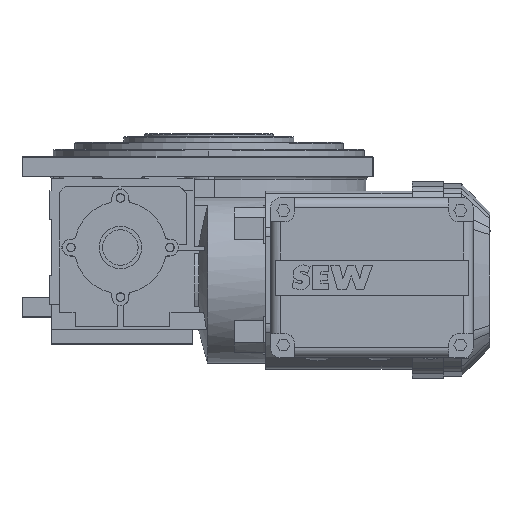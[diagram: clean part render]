
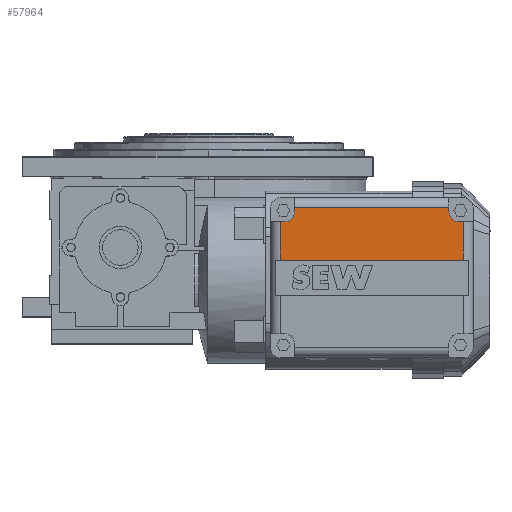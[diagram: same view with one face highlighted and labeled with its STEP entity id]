
A CAD part, top view. The second image highlights one B-rep face of the part: STEP entity #57964.
In plain terms, the highlighted planar face has unit normal (0, 0, 1).
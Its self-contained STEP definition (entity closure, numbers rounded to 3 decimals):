
#16 = ORIENTED_EDGE ( 'NONE', *, *, #41396, .T. ) ;
#137 = CARTESIAN_POINT ( 'NONE',  ( 50.5, 87., 330.5 ) ) ;
#397 = CARTESIAN_POINT ( 'NONE',  ( 187.5, 70., 330.5 ) ) ;
#678 = ORIENTED_EDGE ( 'NONE', *, *, #3190, .T. ) ;
#3190 = EDGE_CURVE ( 'NONE', #4607, #36195, #8022, .T. ) ;
#3600 = VERTEX_POINT ( 'NONE', #65257 ) ;
#3632 = ORIENTED_EDGE ( 'NONE', *, *, #35924, .F. ) ;
#4607 = VERTEX_POINT ( 'NONE', #46206 ) ;
#5109 = PLANE ( 'NONE',  #31613 ) ;
#6052 = DIRECTION ( 'NONE',  ( 1., 0., 0. ) ) ;
#6804 = LINE ( 'NONE', #397, #39927 ) ;
#8022 = CIRCLE ( 'NONE', #53711, 7. ) ;
#8211 = VECTOR ( 'NONE', #6052, 1000. ) ;
#9755 = EDGE_CURVE ( 'NONE', #17515, #15962, #11776, .T. ) ;
#10972 = CARTESIAN_POINT ( 'NONE',  ( 169.5, 77., 330.5 ) ) ;
#11050 = CARTESIAN_POINT ( 'NONE',  ( 169.5, 77., 330.5 ) ) ;
#11251 = EDGE_CURVE ( 'NONE', #36195, #15962, #60104, .T. ) ;
#11543 = DIRECTION ( 'NONE',  ( 0., 1., 0. ) ) ;
#11776 = LINE ( 'NONE', #15688, #8211 ) ;
#12039 = LINE ( 'NONE', #39240, #26457 ) ;
#12180 = DIRECTION ( 'NONE',  ( -1., 0., 0. ) ) ;
#12202 = CARTESIAN_POINT ( 'NONE',  ( 60.5, 88., 330.5 ) ) ;
#12766 = VECTOR ( 'NONE', #21564, 1000. ) ;
#14986 = CARTESIAN_POINT ( 'NONE',  ( 179.5, 70., 330.5 ) ) ;
#15103 = CARTESIAN_POINT ( 'NONE',  ( 53.5, 70., 330.5 ) ) ;
#15688 = CARTESIAN_POINT ( 'NONE',  ( 186.5, 80., 330.5 ) ) ;
#15962 = VERTEX_POINT ( 'NONE', #43758 ) ;
#16449 = ORIENTED_EDGE ( 'NONE', *, *, #35151, .F. ) ;
#16664 = DIRECTION ( 'NONE',  ( 0., -1., 0. ) ) ;
#16729 = EDGE_CURVE ( 'NONE', #3600, #40826, #44518, .T. ) ;
#17515 = VERTEX_POINT ( 'NONE', #57086 ) ;
#17550 = LINE ( 'NONE', #12202, #49842 ) ;
#21564 = DIRECTION ( 'NONE',  ( 0., 1., 0. ) ) ;
#26457 = VECTOR ( 'NONE', #16664, 1000. ) ;
#27460 = VECTOR ( 'NONE', #40520, 1000. ) ;
#27999 = CARTESIAN_POINT ( 'NONE',  ( 115., 30.5, 330.5 ) ) ;
#30555 = CARTESIAN_POINT ( 'NONE',  ( 50.5, 43., 330.5 ) ) ;
#30981 = DIRECTION ( 'NONE',  ( 0., -1., 0. ) ) ;
#31329 = DIRECTION ( 'NONE',  ( 0., 0., -1. ) ) ;
#31613 = AXIS2_PLACEMENT_3D ( 'NONE', #27999, #54461, #11543 ) ;
#33724 = EDGE_CURVE ( 'NONE', #47399, #60291, #56609, .T. ) ;
#34134 = DIRECTION ( 'NONE',  ( -1., 0., 0. ) ) ;
#35066 = ORIENTED_EDGE ( 'NONE', *, *, #62613, .T. ) ;
#35151 = EDGE_CURVE ( 'NONE', #47399, #70002, #57903, .T. ) ;
#35442 = AXIS2_PLACEMENT_3D ( 'NONE', #42741, #58525, #37052 ) ;
#35924 = EDGE_CURVE ( 'NONE', #60079, #60291, #12039, .T. ) ;
#36195 = VERTEX_POINT ( 'NONE', #10972 ) ;
#37052 = DIRECTION ( 'NONE',  ( 0., -1., 0. ) ) ;
#39240 = CARTESIAN_POINT ( 'NONE',  ( 179.5, 87., 330.5 ) ) ;
#39927 = VECTOR ( 'NONE', #12180, 1000. ) ;
#40520 = DIRECTION ( 'NONE',  ( 1., 0., 0. ) ) ;
#40826 = VERTEX_POINT ( 'NONE', #15103 ) ;
#41396 = EDGE_CURVE ( 'NONE', #17515, #3600, #17550, .T. ) ;
#42741 = CARTESIAN_POINT ( 'NONE',  ( 53.5, 77., 330.5 ) ) ;
#43423 = LINE ( 'NONE', #54845, #59615 ) ;
#43758 = CARTESIAN_POINT ( 'NONE',  ( 169.5, 80., 330.5 ) ) ;
#43800 = EDGE_LOOP ( 'NONE', ( #70758, #52500, #16, #68692, #35066, #16449, #54603, #3632, #58113, #678 ) ) ;
#44518 = CIRCLE ( 'NONE', #35442, 7. ) ;
#46206 = CARTESIAN_POINT ( 'NONE',  ( 176.5, 70., 330.5 ) ) ;
#47399 = VERTEX_POINT ( 'NONE', #30555 ) ;
#49842 = VECTOR ( 'NONE', #55825, 1000. ) ;
#50205 = CARTESIAN_POINT ( 'NONE',  ( 179.5, 43., 330.5 ) ) ;
#51943 = CARTESIAN_POINT ( 'NONE',  ( 115., 43., 330.5 ) ) ;
#52500 = ORIENTED_EDGE ( 'NONE', *, *, #9755, .F. ) ;
#53711 = AXIS2_PLACEMENT_3D ( 'NONE', #58568, #31329, #30981 ) ;
#54461 = DIRECTION ( 'NONE',  ( 0., 0., 1. ) ) ;
#54603 = ORIENTED_EDGE ( 'NONE', *, *, #33724, .T. ) ;
#54845 = CARTESIAN_POINT ( 'NONE',  ( 53.5, 70., 330.5 ) ) ;
#55730 = DIRECTION ( 'NONE',  ( 0., 1., 0. ) ) ;
#55825 = DIRECTION ( 'NONE',  ( 0., -1., 0. ) ) ;
#56380 = VECTOR ( 'NONE', #55730, 1000. ) ;
#56609 = LINE ( 'NONE', #51943, #27460 ) ;
#57086 = CARTESIAN_POINT ( 'NONE',  ( 60.5, 80., 330.5 ) ) ;
#57903 = LINE ( 'NONE', #137, #12766 ) ;
#57964 = ADVANCED_FACE ( 'NONE', ( #60984 ), #5109, .T. ) ;
#58113 = ORIENTED_EDGE ( 'NONE', *, *, #60926, .T. ) ;
#58525 = DIRECTION ( 'NONE',  ( 0., 0., -1. ) ) ;
#58568 = CARTESIAN_POINT ( 'NONE',  ( 176.5, 77., 330.5 ) ) ;
#59540 = CARTESIAN_POINT ( 'NONE',  ( 50.5, 70., 330.5 ) ) ;
#59615 = VECTOR ( 'NONE', #34134, 1000. ) ;
#60079 = VERTEX_POINT ( 'NONE', #14986 ) ;
#60104 = LINE ( 'NONE', #11050, #56380 ) ;
#60291 = VERTEX_POINT ( 'NONE', #50205 ) ;
#60926 = EDGE_CURVE ( 'NONE', #60079, #4607, #6804, .T. ) ;
#60984 = FACE_OUTER_BOUND ( 'NONE', #43800, .T. ) ;
#62613 = EDGE_CURVE ( 'NONE', #40826, #70002, #43423, .T. ) ;
#65257 = CARTESIAN_POINT ( 'NONE',  ( 60.5, 77., 330.5 ) ) ;
#68692 = ORIENTED_EDGE ( 'NONE', *, *, #16729, .T. ) ;
#70002 = VERTEX_POINT ( 'NONE', #59540 ) ;
#70758 = ORIENTED_EDGE ( 'NONE', *, *, #11251, .T. ) ;
